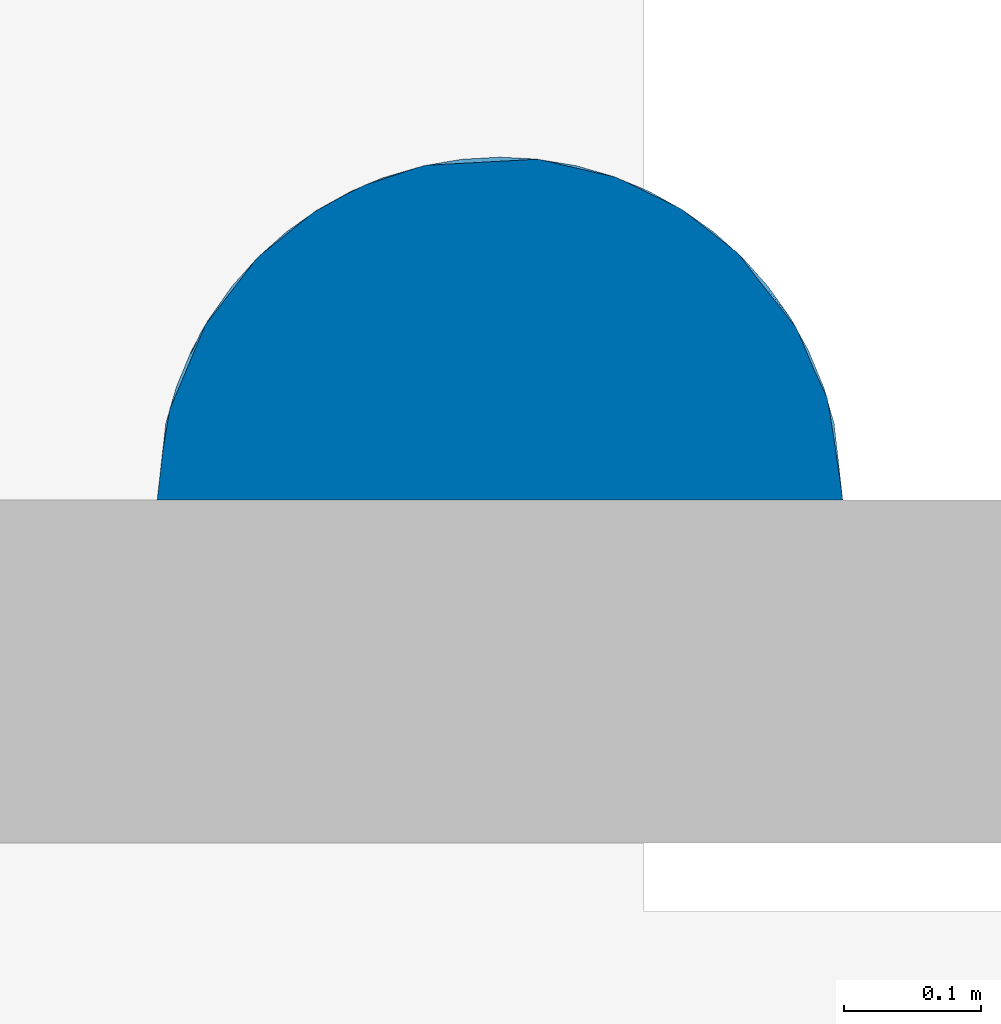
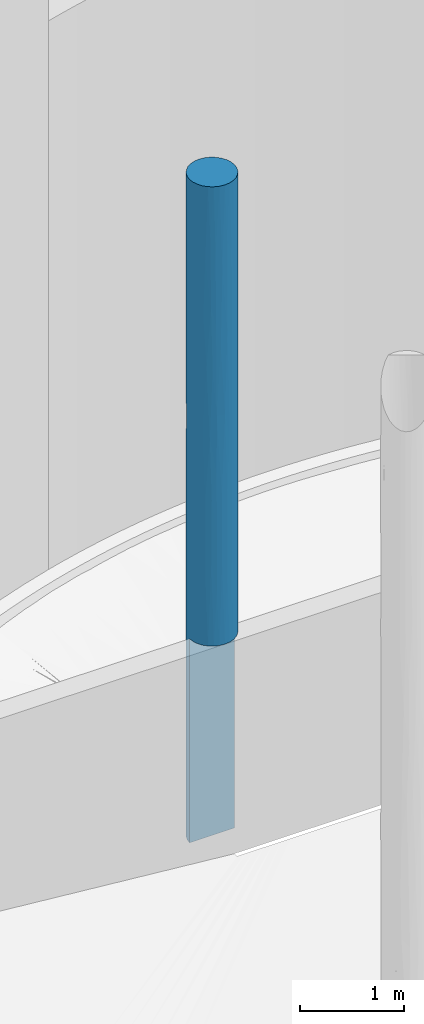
# One storey, part 2 of 5: 1 column.
"""IFC2X3 building model written with IfcOpenShell, lengths in centimetres."""

from ifc_helpers import new_model, entity, si_unit, converted_unit, derived_unit, direction, frame, origin, place, context, subcontext, project, spatial, faceted_brep, source, transform, mapped, material, type_object, type_shapes, element, save


model = new_model("IFC2X3")

# Units and contexts
model_context = context("Model", 3, precision=0.001, world=origin(), true_north=direction((6.12303176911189e-17, 1.0)))
body_context = subcontext(model_context, "Body", "Model", "MODEL_VIEW")
ifc_project = project(units=[si_unit("LENGTHUNIT", "METRE", prefix="CENTI"), si_unit("AREAUNIT", "SQUARE_METRE"), si_unit("VOLUMEUNIT", "CUBIC_METRE"), converted_unit("PLANEANGLEUNIT", "DEGREE", entity("IfcRatioMeasure", 0.0174532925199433), si_unit("PLANEANGLEUNIT", "RADIAN"), dimensions=[0, 0, 0, 0, 0, 0, 0]), si_unit("MASSUNIT", "GRAM", prefix="KILO"), derived_unit("MASSDENSITYUNIT", [(si_unit("MASSUNIT", "GRAM", prefix="KILO"), 1), (si_unit("LENGTHUNIT", "METRE"), -3)]), si_unit("TIMEUNIT", "SECOND"), si_unit("FREQUENCYUNIT", "HERTZ"), si_unit("THERMODYNAMICTEMPERATUREUNIT", "DEGREE_CELSIUS"), derived_unit("THERMALTRANSMITTANCEUNIT", [(si_unit("MASSUNIT", "GRAM", prefix="KILO"), 1), (si_unit("THERMODYNAMICTEMPERATUREUNIT", "KELVIN"), -1), (si_unit("TIMEUNIT", "SECOND"), -3)]), derived_unit("VOLUMETRICFLOWRATEUNIT", [(si_unit("LENGTHUNIT", "METRE"), 3), (si_unit("TIMEUNIT", "SECOND"), -1)]), si_unit("ELECTRICCURRENTUNIT", "AMPERE"), si_unit("ELECTRICVOLTAGEUNIT", "VOLT"), si_unit("POWERUNIT", "WATT"), si_unit("FORCEUNIT", "NEWTON", prefix="KILO"), si_unit("ILLUMINANCEUNIT", "LUX"), si_unit("LUMINOUSFLUXUNIT", "LUMEN"), si_unit("LUMINOUSINTENSITYUNIT", "CANDELA"), derived_unit("USERDEFINED", [(si_unit("MASSUNIT", "GRAM", prefix="KILO"), -1), (si_unit("LENGTHUNIT", "METRE"), -2), (si_unit("TIMEUNIT", "SECOND"), 3), (si_unit("LUMINOUSFLUXUNIT", "LUMEN"), 1)]), derived_unit("LINEARVELOCITYUNIT", [(si_unit("LENGTHUNIT", "METRE"), 1), (si_unit("TIMEUNIT", "SECOND"), -1)]), si_unit("PRESSUREUNIT", "PASCAL"), derived_unit("USERDEFINED", [(si_unit("LENGTHUNIT", "METRE"), -2), (si_unit("MASSUNIT", "GRAM", prefix="KILO"), 1), (si_unit("TIMEUNIT", "SECOND"), -2)])], contexts=[model_context])

# Site, building, storey
site_placement = place(None, origin())
site = spatial("IfcSite", under=ifc_project, at=site_placement, Name="Default", CompositionType="ELEMENT")
building_placement = place(site_placement, origin())
building = spatial("IfcBuilding", under=site, at=building_placement, CompositionType="ELEMENT")
storey_placement = place(building_placement, frame((0.0, 0.0, -870.0)))
storey = spatial("IfcBuildingStorey", under=building, at=storey_placement, Name="Niveau haut radier", CompositionType="ELEMENT", Elevation=-870.000000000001)

# Column
ifc_material = material(Name="Maçonnerie - Béton coulé sur place")
column_type = type_object("IfcColumnType", Name="500mm", PredefinedType="COLUMN")
shared_shape = source(origin(), body_context, "Body", "Brep", [
    faceted_brep([(25.1587499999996, 50.158749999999, 0.0), (30.7217733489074, 49.5319478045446, 0.0), (36.0058434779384, 47.6829716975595, 0.0), (40.7459950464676, 44.7045370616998, 0.0), (44.7045370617, 40.7459950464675, 0.0), (47.6829716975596, 36.0058434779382, 0.0), (49.5319478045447, 30.7217733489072, 0.0), (50.1587499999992, 25.1587499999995, 0.0), (0.158750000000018, 25.1587499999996, 0.0), (0.785552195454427, 30.7217733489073, 0.0), (2.63452830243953, 36.0058434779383, 0.0), (5.61296293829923, 40.7459950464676, 0.0), (9.57150495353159, 44.7045370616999, 0.0), (14.3116565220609, 47.6829716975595, 0.0), (19.5957266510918, 49.5319478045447, 0.0), (48.0549246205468, 35.1969364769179, 468.894860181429), (45.329775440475, 39.9279657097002, 499.978212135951), (48.5082267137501, 34.091943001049, 556.771990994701), (28.7793310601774, 49.8951885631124, 427.9340429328), (31.6679698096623, 49.2964809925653, 489.80961798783), (33.4157264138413, 48.7558333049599, 390.0), (46.3268549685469, 38.4595519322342, 54.0877681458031), (27.9578618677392, 50.001555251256, 683.264679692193), (21.9944098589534, 49.9576804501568, 669.828678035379), (25.1587499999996, 50.158749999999, 780.0), (48.7558332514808, 33.4157265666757, 76.3591091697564), (20.5205377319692, 49.7247221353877, 343.351262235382), (16.4667614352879, 48.599085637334, 307.933922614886), (16.3862373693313, 48.5690687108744, 369.663796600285), (22.3596380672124, 50.0015552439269, 93.519181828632), (27.7986779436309, 50.0189748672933, 67.2587685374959), (3.99064500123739, 38.4595518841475, 597.386900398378), (9.14411541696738, 44.3559237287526, 577.977128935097), (8.53594770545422, 43.8317905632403, 513.810411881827), (33.4157265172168, 48.7558332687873, 76.3591094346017), (38.4595518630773, 46.3268550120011, 119.311207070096), (38.4595518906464, 46.3268549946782, 54.0877682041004), (47.6829716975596, 36.0058434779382, 780.0), (48.7558332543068, 33.4157265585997, 717.6983967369), (46.3268549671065, 38.4595519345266, 697.939557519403), (50.1587499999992, 25.1587499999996, 559.165217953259), (50.1587499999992, 25.1587499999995, 479.373913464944), (49.6742815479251, 30.0565773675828, 510.855154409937), (16.901773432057, 48.7558332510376, 709.507864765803), (14.3116565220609, 47.6829716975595, 780.0), (19.5957266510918, 49.5319478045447, 780.0), (27.9578618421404, 50.0015552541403, 162.511981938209), (49.8017239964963, 29.368718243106, 279.895651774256), (50.1587499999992, 25.1587499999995, 319.791304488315), (50.1587499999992, 25.1587499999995, 240.0), (50.1587499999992, 25.1587499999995, 669.58260897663), (48.7558332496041, 33.4157265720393, 645.517373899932), (38.4595518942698, 46.3268549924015, 725.912231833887), (36.0058434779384, 47.6829716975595, 780.0), (40.7459950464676, 44.7045370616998, 780.0), (49.5319478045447, 30.7217733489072, 780.0), (7.48108045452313, 42.8364195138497, 677.780128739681), (5.61296293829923, 40.7459950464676, 780.0), (9.57150495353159, 44.7045370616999, 780.0), (0.834220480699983, 30.9308608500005, 188.484697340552), (0.158750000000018, 25.1587499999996, 110.417565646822), (0.158750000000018, 25.1587499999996, 175.208621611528), (0.158750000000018, 25.1587499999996, 240.0), (16.5978988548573, 48.6472967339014, 94.7210186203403), (24.0023493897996, 50.131990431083, 241.55338493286), (29.0742546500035, 49.8502226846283, 228.335237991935), (44.7045370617, 40.7459950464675, 780.0), (42.8364195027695, 42.8364195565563, 76.3591093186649), (46.3268549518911, 38.4595519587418, 119.311206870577), (11.8579480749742, 46.3268549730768, 59.7330104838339), (43.1044238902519, 42.5642890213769, 659.887667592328), (42.3348295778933, 43.3241646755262, 722.237216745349), (49.7185636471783, 29.8294623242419, 368.069752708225), (48.7408433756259, 33.4584410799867, 319.79130518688), (33.6551248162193, 48.6706962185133, 693.300512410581), (30.7217733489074, 49.5319478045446, 780.0), (33.6842402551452, 48.6601545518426, 153.413008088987), (50.1587499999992, 25.1587499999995, 780.0), (50.1587499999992, 25.1587499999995, 110.417390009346), (1.56166673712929, 33.4157265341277, 103.339168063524), (1.5616667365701, 33.4157265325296, 677.780128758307), (0.571591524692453, 29.6833094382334, 614.373914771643), (0.158750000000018, 25.1587499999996, 669.582391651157), (31.4036444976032, 49.3662135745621, 631.577320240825), (27.9578618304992, 50.001555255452, 579.889960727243), (0.158750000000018, 25.1587499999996, 319.79144509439), (0.745295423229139, 30.5423580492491, 279.895652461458), (0.785552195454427, 30.7217733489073, 780.0), (0.158750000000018, 25.1587499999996, 700.209671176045), (0.158750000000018, 25.1587499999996, 780.0), (46.0769491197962, 38.8492191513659, 612.67412008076), (35.2154365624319, 48.0468048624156, 574.920058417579), (22.0004160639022, 49.9584461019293, 591.38083708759), (24.2576958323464, 50.1425067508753, 522.419313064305), (7.48108045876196, 42.8364195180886, 80.2190219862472), (11.8579480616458, 46.326854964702, 129.709026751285), (7.48897255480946, 42.8443080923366, 158.442496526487), (2.63452830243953, 36.0058434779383, 780.0), (19.5246383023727, 49.5156132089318, 167.805675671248), (3.84866567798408, 38.2308694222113, 69.721005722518), (16.9017734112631, 48.7558332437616, 630.149491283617), (5.40763228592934, 40.4849807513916, 487.882534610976), (1.43813419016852, 33.0538361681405, 515.068583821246), (3.99064501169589, 38.4595519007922, 709.39370388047), (1.90363247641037, 34.3347790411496, 616.086547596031), (12.1973110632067, 46.536334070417, 669.828678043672), (42.4722370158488, 43.1932493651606, 148.454653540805), (49.1074422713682, 32.3323222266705, 184.823677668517), (0.613374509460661, 29.9047527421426, 359.68695737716), (0.74258536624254, 30.5300538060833, 440.792590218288), (2.16064177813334, 34.961148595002, 386.191695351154), (3.29247976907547, 37.2775876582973, 128.558044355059), (49.7388032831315, 29.721751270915, 571.607170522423), (38.4595518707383, 46.3268550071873, 660.688793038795), (46.7383470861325, 37.780991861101, 254.650441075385), (47.050795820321, 37.2309631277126, 185.961518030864), (42.8364194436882, 42.8364196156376, 220.550197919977), (48.3391221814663, 34.5219943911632, 393.914767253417), (45.8191931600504, 39.235187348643, 423.176851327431), (43.5216900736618, 42.123490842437, 296.652677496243), (39.7234050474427, 45.4779730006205, 262.04473079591), (49.6690000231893, 30.0829396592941, 439.478264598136), (4.31177524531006, 38.9574326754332, 414.843715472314), (4.20350777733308, 38.7924517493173, 344.938885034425), (46.3611619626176, 38.4047957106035, 344.079130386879), (43.0611145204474, 42.6088315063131, 373.341214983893), (39.1739405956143, 45.8607893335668, 462.745991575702), (16.4394588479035, 48.5889433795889, 539.54449342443), (12.7524384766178, 46.8632065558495, 606.491733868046), (11.8579480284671, 46.3268549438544, 477.689167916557), (12.2416850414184, 46.5631755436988, 384.550433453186), (7.50501416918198, 42.8603208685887, 414.753198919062), (0.158750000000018, 25.1587499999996, 559.165281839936), (0.158750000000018, 25.1587499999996, 620.418002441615), (7.61439652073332, 42.968737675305, 330.837985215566), (12.1109107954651, 46.483709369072, 291.248949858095), (11.1495496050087, 45.8648434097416, 208.357149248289), (7.0161190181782, 42.3588936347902, 244.772803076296), (27.6698377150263, 50.0323190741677, 324.032615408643), (33.2880753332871, 48.8001135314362, 265.137931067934), (23.4137073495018, 50.0977721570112, 448.245322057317), (17.0351058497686, 48.8020663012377, 435.634812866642), (2.37627978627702, 35.4523912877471, 454.791033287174), (0.158750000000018, 25.1587499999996, 479.373836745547), (2.82367399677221, 36.3901515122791, 284.97295456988), (14.8810948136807, 47.9484363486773, 176.035737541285), (16.9017733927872, 48.7558332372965, 243.016576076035), (38.2505909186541, 46.4567241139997, 325.404922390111), (38.2124655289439, 46.4801127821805, 198.898409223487), (38.2233176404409, 46.473464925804, 394.861269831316), (38.5970716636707, 46.239819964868, 529.561062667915), (39.4981649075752, 45.6375483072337, 595.487672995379), (42.8364194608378, 42.836419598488, 559.449802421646), (50.1587499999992, 25.1587499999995, 399.582608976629), (48.6937738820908, 33.5909887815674, 259.456015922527), (33.9096755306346, 48.5771466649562, 327.460637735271), (42.7177203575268, 42.9543269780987, 437.712707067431), (50.1587499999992, 25.1587499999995, 175.208695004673), (3.99064500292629, 38.4595518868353, 186.430515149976), (0.158750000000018, 25.1587499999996, 350.418002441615), (0.158750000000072, 25.1587499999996, 399.582391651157), (0.158750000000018, 25.1587499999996, 540.626333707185), (0.158750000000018, 25.1587499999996, 460.834664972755), (0.785552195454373, 19.5957266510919, 240.0), (2.63452830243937, 14.3116565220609, 240.0), (1.56166674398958, 16.9017734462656, 302.30160358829), (36.0058434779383, 2.63452830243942, 780.0), (30.7217733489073, 0.785552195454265, 780.0), (33.4157265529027, 1.56166674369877, 698.693818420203), (33.6769954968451, 1.65471856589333, 336.898645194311), (33.8881874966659, 1.73233497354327, 416.400053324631), (27.9578619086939, 0.315944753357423, 411.90584183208), (9.57150495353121, 5.61296293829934, 240.0), (7.48108047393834, 7.48108046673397, 321.75250980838), (5.61296293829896, 9.57150495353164, 240.0), (19.5957266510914, 0.785552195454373, 240.0), (16.9017734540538, 1.56166674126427, 301.25767982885), (14.3116565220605, 2.63452830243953, 240.0), (1.56166674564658, 16.9017734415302, 374.482626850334), (3.84788248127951, 12.0879074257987, 338.392115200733), (3.73714774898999, 12.2701908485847, 417.802409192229), (11.8579480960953, 3.9906450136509, 637.618831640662), (15.7445324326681, 1.99903265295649, 698.9283551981), (11.295842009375, 4.35442876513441, 717.734714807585), (10.9120814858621, 4.61532194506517, 482.38411957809), (12.4530192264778, 3.62820412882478, 411.482359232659), (16.7655443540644, 1.60977764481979, 441.269805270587), (12.0913324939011, 3.84578212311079, 336.898645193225), (7.48108047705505, 7.48108046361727, 411.262750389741), (27.9578619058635, 0.315944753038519, 322.08856618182), (22.0842137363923, 0.34852576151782, 336.898645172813), (25.1587499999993, 0.158749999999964, 240.0), (40.7459950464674, 5.61296293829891, 240.0), (44.7045370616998, 9.57150495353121, 240.0), (42.8364195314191, 7.48108047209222, 321.306181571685), (30.721773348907, 0.785552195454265, 240.0), (1.2256012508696, 17.9334893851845, 469.038607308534), (16.2192746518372, 1.81167779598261, 615.599763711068), (1.56166674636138, 16.9017734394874, 666.906562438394), (49.5319478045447, 19.5957266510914, 240.0), (49.5319478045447, 19.5957266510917, 780.0), (2.63452830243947, 14.3116565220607, 780.0), (0.785552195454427, 19.5957266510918, 780.0), (40.7459950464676, 5.61296293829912, 780.0), (38.4595519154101, 3.99064502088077, 718.742320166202), (16.9017734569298, 1.56166674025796, 372.539610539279), (48.7558332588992, 16.9017734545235, 682.454014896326), (47.6829716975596, 14.3116565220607, 780.0), (3.99064502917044, 11.8579480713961, 570.464191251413), (3.97110005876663, 11.8891045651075, 683.356573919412), (9.57150495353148, 5.61296293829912, 780.0), (7.4810804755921, 7.48108046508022, 694.812371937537), (38.4595519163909, 3.99064502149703, 372.539610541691), (38.4595519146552, 3.99064502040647, 301.257679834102), (42.8364195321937, 7.4810804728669, 698.693818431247), (38.4595519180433, 3.99064502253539, 647.460389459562), (27.9578619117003, 0.315944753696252, 608.094158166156), (27.7780626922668, 0.296344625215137, 711.674718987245), (43.6093854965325, 8.2894272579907, 537.443272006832), (42.7665983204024, 7.41153394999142, 623.034304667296), (38.4034854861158, 3.95551954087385, 578.730194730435), (21.8610454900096, 0.377201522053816, 416.400053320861), (5.77149468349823, 9.37476028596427, 492.366957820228), (8.43174775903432, 6.57899230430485, 567.062797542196), (36.0058434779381, 2.63452830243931, 240.0), (46.4225260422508, 12.0114374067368, 308.325281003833), (46.3268549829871, 11.8579480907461, 411.905841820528), (47.6829716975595, 14.3116565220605, 240.0), (48.7558332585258, 16.9017734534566, 337.545985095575), (5.61296293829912, 9.57150495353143, 780.0), (2.90864189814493, 13.7599478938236, 506.836323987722), (0.94169165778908, 18.9511671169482, 580.521737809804), (49.1699340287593, 18.1972098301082, 581.581471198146), (33.9319172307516, 1.74867659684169, 601.35314738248), (29.6841224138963, 0.57174114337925, 545.124653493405), (22.3596381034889, 0.315944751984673, 682.454014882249), (25.1587499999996, 0.158749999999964, 780.0), (19.5957266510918, 0.785552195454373, 780.0), (25.3249148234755, 0.159302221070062, 510.0), (30.6890899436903, 0.77811546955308, 479.53607306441), (44.7045370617, 9.57150495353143, 780.0), (42.4811351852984, 7.13279727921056, 451.343392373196), (47.4307640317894, 13.8028092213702, 510.0), (49.2162195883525, 18.3588855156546, 429.931176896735), (46.2874365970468, 11.7954194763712, 681.950367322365), (16.9017734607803, 1.56166673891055, 510.0), (20.8009088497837, 0.541495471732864, 589.471684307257), (6.13659880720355, 8.93661191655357, 626.368372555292), (14.3116565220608, 2.63452830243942, 780.0), (13.1841589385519, 3.21315433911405, 564.401178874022), (46.3268549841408, 11.8579480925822, 608.094158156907), (42.3422563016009, 7.00036044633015, 386.040080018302), (38.3119981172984, 3.89864501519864, 441.269805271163), (34.1457616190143, 1.82993472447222, 523.238121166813), (49.4763645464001, 19.3575757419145, 505.965337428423), (38.4595519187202, 3.99064502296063, 510.0)], [[[0, 1, 2, 3, 4, 5, 6, 7, 8, 9, 10, 11, 12, 13, 14]], [[15, 16, 17]], [[18, 19, 20]], [[4, 21, 5]], [[22, 23, 24]], [[5, 21, 25]], [[26, 27, 28]], [[29, 30, 0]], [[31, 32, 33]], [[34, 35, 36]], [[37, 38, 39]], [[2, 36, 3]], [[40, 41, 42]], [[43, 44, 45]], [[46, 34, 30]], [[47, 48, 49]], [[50, 51, 38]], [[52, 53, 54]], [[14, 29, 0]], [[55, 38, 37]], [[56, 57, 58]], [[59, 60, 61, 62]], [[14, 13, 63]], [[46, 64, 65]], [[37, 39, 66]], [[67, 68, 21]], [[13, 12, 69]], [[70, 71, 39]], [[72, 47, 73]], [[53, 74, 75]], [[35, 34, 76]], [[55, 77, 50]], [[7, 6, 78]], [[79, 10, 9]], [[80, 81, 82]], [[83, 84, 22]], [[62, 85, 86]], [[9, 8, 60]], [[87, 82, 88, 89]], [[59, 62, 86]], [[70, 39, 90]], [[60, 79, 9]], [[84, 91, 19]], [[92, 84, 93]], [[94, 12, 11]], [[95, 94, 96]], [[80, 87, 97]], [[24, 75, 22]], [[46, 98, 64]], [[10, 79, 99]], [[100, 43, 23]], [[98, 46, 29]], [[92, 100, 23]], [[31, 101, 102]], [[67, 4, 3]], [[103, 31, 104]], [[44, 105, 58]], [[32, 56, 105]], [[56, 103, 57]], [[106, 68, 67]], [[78, 25, 107]], [[94, 95, 69]], [[34, 2, 1]], [[108, 109, 110]], [[49, 107, 47]], [[5, 25, 6]], [[103, 80, 97]], [[111, 96, 94]], [[105, 44, 43]], [[32, 31, 56]], [[102, 81, 104]], [[82, 87, 80]], [[53, 52, 74]], [[84, 92, 23]], [[63, 13, 69]], [[29, 63, 98]], [[90, 39, 51]], [[112, 50, 40]], [[71, 70, 113]], [[11, 10, 99]], [[99, 111, 94]], [[1, 0, 30]], [[76, 34, 46]], [[36, 67, 3]], [[106, 67, 35]], [[25, 68, 107]], [[78, 6, 25]], [[114, 115, 116]], [[48, 47, 72]], [[117, 118, 15]], [[119, 114, 116]], [[120, 119, 116]], [[15, 121, 117]], [[17, 16, 90]], [[122, 123, 110]], [[45, 24, 23]], [[105, 43, 100]], [[50, 38, 55]], [[39, 38, 51]], [[118, 124, 125]], [[20, 19, 126]], [[23, 43, 45]], [[84, 23, 22]], [[127, 32, 128]], [[58, 105, 56]], [[100, 128, 105]], [[33, 32, 129]], [[130, 131, 129]], [[81, 132, 133, 82]], [[134, 130, 135]], [[136, 96, 137]], [[18, 93, 19]], [[127, 100, 92]], [[138, 139, 65]], [[140, 141, 127]], [[127, 92, 93]], [[32, 127, 129]], [[109, 142, 110]], [[109, 143, 102]], [[110, 142, 122]], [[144, 123, 137]], [[94, 69, 12]], [[63, 69, 95]], [[95, 136, 145]], [[14, 63, 29]], [[145, 63, 95]], [[98, 146, 64]], [[64, 146, 27]], [[26, 138, 64]], [[119, 147, 125]], [[148, 35, 76]], [[146, 136, 135]], [[18, 138, 26]], [[93, 84, 19]], [[127, 93, 140]], [[74, 83, 22]], [[125, 147, 149]], [[150, 19, 91]], [[118, 16, 15]], [[113, 151, 91]], [[91, 151, 150]], [[90, 51, 17]], [[152, 151, 70]], [[40, 42, 112]], [[41, 121, 42]], [[72, 73, 117]], [[153, 121, 41]], [[42, 15, 17]], [[124, 117, 73]], [[117, 124, 118]], [[114, 124, 73]], [[119, 125, 124]], [[154, 73, 47]], [[114, 154, 115]], [[114, 119, 124]], [[116, 148, 120]], [[139, 155, 147]], [[147, 155, 149]], [[125, 156, 118]], [[16, 126, 152]], [[16, 118, 156]], [[16, 152, 90]], [[15, 42, 121]], [[42, 17, 112]], [[65, 76, 46]], [[148, 116, 106]], [[76, 139, 148]], [[120, 139, 147]], [[152, 70, 90]], [[113, 52, 71]], [[72, 121, 153]], [[157, 78, 107, 49]], [[73, 154, 114]], [[121, 72, 117]], [[48, 72, 153]], [[52, 54, 71]], [[74, 52, 113]], [[83, 113, 91]], [[75, 74, 22]], [[54, 66, 71]], [[39, 71, 66]], [[34, 36, 2]], [[67, 36, 35]], [[67, 21, 4]], [[25, 21, 68]], [[113, 83, 74]], [[91, 84, 83]], [[158, 137, 96]], [[136, 95, 96]], [[137, 158, 144]], [[135, 136, 137]], [[111, 59, 158]], [[108, 144, 86]], [[135, 137, 134]], [[145, 146, 98]], [[86, 85, 108]], [[108, 85, 159, 160]], [[59, 144, 158]], [[59, 86, 144]], [[60, 59, 79]], [[134, 131, 130]], [[27, 146, 135]], [[141, 130, 129]], [[130, 28, 27]], [[109, 108, 160]], [[108, 110, 144]], [[102, 143, 161, 132]], [[142, 109, 102]], [[109, 160, 162, 143]], [[127, 141, 129]], [[26, 141, 140]], [[144, 110, 123]], [[131, 101, 33]], [[47, 107, 154]], [[115, 154, 107]], [[148, 106, 35]], [[106, 116, 115]], [[18, 26, 140]], [[155, 138, 20]], [[149, 156, 125]], [[16, 156, 126]], [[17, 51, 112]], [[50, 112, 51]], [[139, 120, 148]], [[119, 120, 147]], [[102, 101, 142]], [[122, 101, 131]], [[101, 122, 142]], [[123, 131, 134]], [[131, 123, 122]], [[137, 123, 134]], [[127, 128, 100]], [[32, 105, 128]], [[146, 145, 136]], [[63, 145, 98]], [[57, 103, 97]], [[31, 103, 56]], [[104, 81, 80]], [[102, 132, 81]], [[111, 99, 79]], [[11, 99, 94]], [[46, 30, 29]], [[1, 30, 34]], [[131, 33, 129]], [[31, 33, 101]], [[138, 65, 64]], [[76, 65, 139]], [[138, 18, 20]], [[93, 18, 140]], [[70, 151, 113]], [[150, 152, 126]], [[152, 150, 151]], [[19, 150, 126]], [[107, 68, 115]], [[115, 68, 106]], [[138, 155, 139]], [[149, 155, 20]], [[20, 126, 149]], [[149, 126, 156]], [[130, 27, 135]], [[64, 27, 26]], [[130, 141, 28]], [[141, 26, 28]], [[103, 104, 80]], [[102, 104, 31]], [[59, 111, 79]], [[96, 111, 158]], [[163, 164, 165]], [[166, 167, 168]], [[169, 170, 171]], [[172, 173, 174]], [[175, 176, 177]], [[178, 179, 180]], [[181, 182, 183]], [[184, 185, 186]], [[187, 188, 173]], [[189, 190, 191]], [[192, 193, 194]], [[189, 191, 195]], [[180, 196, 178]], [[179, 178, 165]], [[182, 181, 197]], [[178, 162, 160, 159, 165]], [[198, 88, 82, 133]], [[48, 199, 49]], [[50, 77, 200]], [[198, 201, 202]], [[203, 166, 204]], [[205, 176, 190]], [[206, 200, 207]], [[202, 88, 198]], [[208, 209, 198]], [[165, 159, 163]], [[183, 210, 211]], [[194, 212, 213]], [[214, 204, 215]], [[216, 168, 217]], [[218, 219, 220]], [[205, 190, 221]], [[174, 173, 179]], [[222, 223, 208]], [[213, 224, 192]], [[225, 226, 194]], [[172, 177, 187]], [[227, 199, 228]], [[211, 210, 229]], [[227, 228, 225]], [[230, 222, 208]], [[196, 230, 231]], [[50, 206, 232]], [[195, 224, 169]], [[233, 216, 234]], [[235, 236, 237]], [[217, 236, 235]], [[215, 204, 168]], [[234, 238, 239]], [[199, 48, 228]], [[240, 203, 214]], [[241, 242, 218]], [[242, 241, 226]], [[203, 204, 214]], [[226, 243, 242]], [[240, 244, 207]], [[245, 221, 238]], [[196, 231, 161]], [[171, 189, 169]], [[226, 228, 243]], [[235, 246, 216]], [[244, 240, 214]], [[247, 209, 208]], [[182, 237, 248]], [[245, 197, 249]], [[226, 225, 228]], [[243, 228, 153]], [[206, 250, 232]], [[50, 200, 206]], [[229, 201, 209]], [[223, 247, 208]], [[224, 213, 169]], [[171, 221, 190]], [[177, 176, 187]], [[188, 180, 179]], [[193, 227, 225]], [[163, 159, 85, 62]], [[88, 202, 89]], [[251, 226, 241]], [[167, 236, 217]], [[233, 168, 216]], [[219, 214, 215]], [[206, 244, 250]], [[164, 174, 179]], [[179, 165, 164]], [[188, 179, 173]], [[222, 180, 188]], [[178, 196, 162]], [[230, 180, 222]], [[231, 133, 132, 161]], [[188, 184, 222]], [[249, 184, 245]], [[188, 187, 185]], [[223, 249, 181]], [[184, 223, 222]], [[247, 181, 211]], [[175, 191, 190]], [[187, 176, 205]], [[190, 176, 175]], [[171, 190, 189]], [[187, 205, 185]], [[172, 187, 173]], [[238, 221, 171]], [[186, 221, 245]], [[171, 170, 239]], [[238, 216, 246]], [[194, 213, 192]], [[169, 213, 212]], [[169, 212, 170]], [[195, 169, 189]], [[212, 252, 170]], [[171, 239, 238]], [[168, 204, 166]], [[186, 185, 205]], [[188, 185, 184]], [[253, 170, 252]], [[238, 234, 216]], [[198, 133, 231]], [[196, 161, 143, 162]], [[208, 198, 231]], [[249, 197, 181]], [[238, 246, 245]], [[221, 186, 205]], [[184, 186, 245]], [[254, 40, 232]], [[242, 232, 250]], [[239, 253, 234]], [[218, 242, 250]], [[242, 243, 254]], [[232, 40, 50]], [[250, 244, 219]], [[218, 255, 241]], [[252, 241, 255]], [[194, 251, 212]], [[254, 232, 242]], [[243, 153, 41]], [[233, 220, 215]], [[233, 234, 253]], [[168, 233, 215]], [[170, 253, 239]], [[253, 255, 220]], [[252, 212, 251]], [[253, 252, 255]], [[253, 220, 233]], [[218, 220, 255]], [[220, 219, 215]], [[218, 250, 219]], [[184, 249, 223]], [[197, 245, 246]], [[246, 235, 197]], [[210, 183, 248]], [[197, 235, 182]], [[237, 182, 235]], [[243, 41, 254]], [[40, 254, 41]], [[181, 247, 223]], [[247, 211, 209]], [[229, 209, 211]], [[201, 198, 209]], [[48, 153, 228]], [[193, 225, 194]], [[216, 217, 235]], [[167, 217, 168]], [[207, 244, 206]], [[219, 244, 214]], [[231, 230, 208]], [[180, 230, 196]], [[226, 251, 194]], [[252, 251, 241]], [[181, 183, 211]], [[248, 183, 182]], [[167, 166, 203, 240, 207, 200, 77, 55, 37, 66, 54, 53, 75, 24, 45, 44, 58, 57, 97, 87, 89, 202, 201, 229, 210, 248, 237, 236]], [[8, 7, 78, 157, 49, 62, 61, 60]], [[224, 195, 191, 175, 177, 172, 174, 164, 163, 62, 49, 199, 227, 193, 192]]]),
])
type_shapes(column_type, [shared_shape])
column_placement = place(storey_placement, frame((-353.158750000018, 521.841249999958, -40.0)))
element("IfcColumn", 1, at=column_placement, inside=storey, type_object=column_type, material=ifc_material, Name="Poteau béton - Arrondi:500mm", ObjectType="500mm", context=body_context, shape_type="MappedRepresentation", body=[
    mapped(shared_shape, transform((0.0, 0.0, 0.0), scale=1.0)),
])

save(model, "model.ifc")
